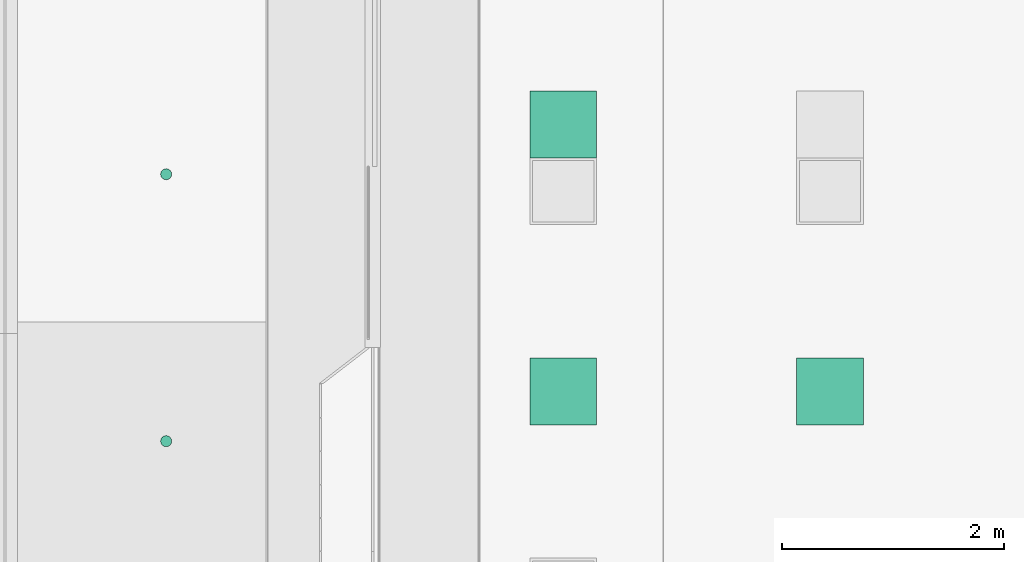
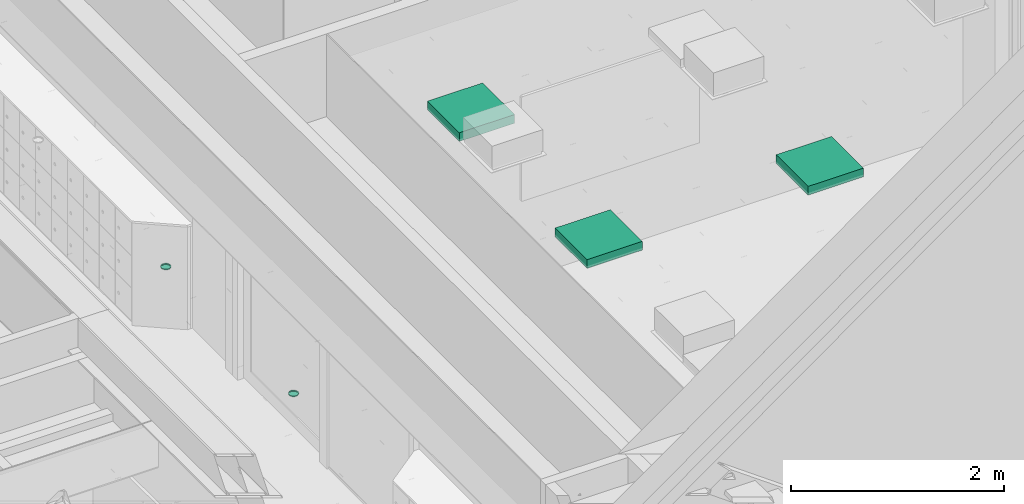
# One storey, part 242 of 347: 5 flow terminals.
"""IFC2X3 building model written with IfcOpenShell, lengths in millimetres."""

from ifc_helpers import new_model, entity, si_unit, converted_unit, derived_unit, money_unit, direction, frame, origin_with_axes, place, context, subcontext, project, spatial, open_shell, faceted_brep, surface_model, source, transform, mapped, type_object, type_shapes, element, save


model = new_model("IFC2X3")

# Units and contexts
model_context = context("Model", 3, precision=0.01, world=origin_with_axes(), true_north=direction((0.0, 1.0)))
plan_context = context("Plan", 3, precision=0.01, world=origin_with_axes(), true_north=direction((0.0, 1.0)))
body_context = subcontext(model_context, "Body", "Model", "MODEL_VIEW")
ifc_project = project(units=[si_unit("LENGTHUNIT", "METRE", prefix="MILLI"), si_unit("AREAUNIT", "SQUARE_METRE"), si_unit("VOLUMEUNIT", "CUBIC_METRE"), converted_unit("PLANEANGLEUNIT", "DEGREE", entity("IfcPlaneAngleMeasure", 0.0174532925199), si_unit("PLANEANGLEUNIT", "RADIAN"), dimensions=[0, 0, 0, 0, 0, 0, 0]), money_unit("EUR"), converted_unit("TIMEUNIT", "Year", entity("IfcTimeMeasure", 31556926.0), si_unit("TIMEUNIT", "SECOND"), dimensions=[0, 0, 1, 0, 0, 0, 0]), si_unit("MASSUNIT", "GRAM", prefix="KILO"), si_unit("THERMODYNAMICTEMPERATUREUNIT", "DEGREE_CELSIUS"), si_unit("LUMINOUSINTENSITYUNIT", "LUMEN"), si_unit("ENERGYUNIT", "JOULE", prefix="MEGA"), derived_unit("THERMALCONDUCTANCEUNIT", [(si_unit("POWERUNIT", "WATT"), 1), (si_unit("LENGTHUNIT", "METRE"), -1), (si_unit("THERMODYNAMICTEMPERATUREUNIT", "KELVIN"), -1)]), derived_unit("SPECIFICHEATCAPACITYUNIT", [(si_unit("ENERGYUNIT", "JOULE"), 1), (si_unit("MASSUNIT", "GRAM", prefix="KILO"), -1), (si_unit("THERMODYNAMICTEMPERATUREUNIT", "KELVIN"), -1)]), derived_unit("MASSDENSITYUNIT", [(si_unit("MASSUNIT", "GRAM", prefix="KILO"), 1), (si_unit("VOLUMEUNIT", "CUBIC_METRE"), -1)])], contexts=[model_context, plan_context])

# Site, building, storey
site_placement = place(None, origin_with_axes())
site = spatial("IfcSite", under=ifc_project, at=site_placement, Name="Site", CompositionType="ELEMENT")
building_placement = place(site_placement, origin_with_axes())
building = spatial("IfcBuilding", under=site, at=building_placement, Name="Naam gebouw", CompositionType="ELEMENT")
storey_placement = place(building_placement, origin_with_axes())
storey = spatial("IfcBuildingStorey", under=building, at=storey_placement, Name="begane grond", CompositionType="ELEMENT", Elevation=0.0)

# Flow terminals
lamp_type_1 = type_object("IfcLampType", Name="Spot plafond 01 25", PredefinedType="NOTDEFINED")
shared_shape_1 = source(origin_with_axes(), body_context, "Body", "SurfaceModel", [
    faceted_brep([(50.0, 0.0, -10.0), (46.1939766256, 19.1341716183, -10.0), (46.1939766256, 19.1341716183, 0.0), (50.0, 0.0, 0.0), (46.1939766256, -19.1341716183, -10.0), (35.3553390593, -35.3553390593, -10.0), (19.1341716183, -46.1939766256, -10.0), (0.0, -50.0, -10.0), (-19.1341716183, -46.1939766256, -10.0), (-35.3553390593, -35.3553390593, -10.0), (-46.1939766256, -19.1341716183, -10.0), (-50.0, 0.0, -10.0), (-46.1939766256, 19.1341716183, -10.0), (-35.3553390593, 35.3553390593, -10.0), (-19.1341716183, 46.1939766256, -10.0), (0.0, 50.0, -10.0), (19.1341716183, 46.1939766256, -10.0), (35.3553390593, 35.3553390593, -10.0), (40.0, 0.0, -10.0), (36.9551813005, 15.3073372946, -10.0), (28.2842712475, 28.2842712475, -10.0), (15.3073372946, 36.9551813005, -10.0), (0.0, 40.0, -10.0), (-15.3073372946, 36.9551813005, -10.0), (-28.2842712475, 28.2842712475, -10.0), (-36.9551813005, 15.3073372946, -10.0), (-40.0, 0.0, -10.0), (-36.9551813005, -15.3073372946, -10.0), (-28.2842712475, -28.2842712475, -10.0), (-15.3073372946, -36.9551813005, -10.0), (0.0, -40.0, -10.0), (15.3073372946, -36.9551813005, -10.0), (28.2842712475, -28.2842712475, -10.0), (36.9551813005, -15.3073372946, -10.0), (35.3553390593, 35.3553390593, 0.0), (19.1341716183, 46.1939766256, 0.0), (0.0, 50.0, 0.0), (-19.1341716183, 46.1939766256, 0.0), (-35.3553390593, 35.3553390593, 0.0), (-46.1939766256, 19.1341716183, 0.0), (-50.0, 0.0, 0.0), (-46.1939766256, -19.1341716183, 0.0), (-35.3553390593, -35.3553390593, 0.0), (-19.1341716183, -46.1939766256, 0.0), (0.0, -50.0, 0.0), (19.1341716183, -46.1939766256, 0.0), (35.3553390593, -35.3553390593, 0.0), (46.1939766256, -19.1341716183, 0.0), (40.0, 0.0, 0.0), (36.9551813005, -15.3073372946, 0.0), (28.2842712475, -28.2842712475, 0.0), (15.3073372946, -36.9551813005, 0.0), (0.0, -40.0, 0.0), (-15.3073372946, -36.9551813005, 0.0), (-28.2842712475, -28.2842712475, 0.0), (-36.9551813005, -15.3073372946, 0.0), (-40.0, 0.0, 0.0), (-36.9551813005, 15.3073372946, 0.0), (-28.2842712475, 28.2842712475, 0.0), (-15.3073372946, 36.9551813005, 0.0), (0.0, 40.0, 0.0), (15.3073372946, 36.9551813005, 0.0), (28.2842712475, 28.2842712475, 0.0), (36.9551813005, 15.3073372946, 0.0)], [[[0, 1, 2, 3]], [[0, 4, 5, 6, 7, 8, 9, 10, 11, 12, 13, 14, 15, 16, 17, 1], [18, 19, 20, 21, 22, 23, 24, 25, 26, 27, 28, 29, 30, 31, 32, 33]], [[1, 17, 34, 2]], [[3, 2, 34, 35, 36, 37, 38, 39, 40, 41, 42, 43, 44, 45, 46, 47], [48, 49, 50, 51, 52, 53, 54, 55, 56, 57, 58, 59, 60, 61, 62, 63]], [[4, 0, 3, 47]], [[5, 4, 47, 46]], [[6, 5, 46, 45]], [[7, 6, 45, 44]], [[8, 7, 44, 43]], [[9, 8, 43, 42]], [[10, 9, 42, 41]], [[11, 10, 41, 40]], [[12, 11, 40, 39]], [[13, 12, 39, 38]], [[14, 13, 38, 37]], [[15, 14, 37, 36]], [[16, 15, 36, 35]], [[17, 16, 35, 34]], [[19, 18, 48, 63]], [[20, 19, 63, 62]], [[21, 20, 62, 61]], [[22, 21, 61, 60]], [[23, 22, 60, 59]], [[24, 23, 59, 58]], [[25, 24, 58, 57]], [[26, 25, 57, 56]], [[27, 26, 56, 55]], [[28, 27, 55, 54]], [[29, 28, 54, 53]], [[30, 29, 53, 52]], [[31, 30, 52, 51]], [[32, 31, 51, 50]], [[33, 32, 50, 49]], [[18, 33, 49, 48]]]),
    surface_model("IfcShellBasedSurfaceModel", [(40.0, 0.0, -8.9), (36.9551813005, -15.3073372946, -8.9), (28.2842712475, -28.2842712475, -8.9), (15.3073372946, -36.9551813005, -8.9), (0.0, -40.0, -8.9), (-15.3073372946, -36.9551813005, -8.9), (-28.2842712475, -28.2842712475, -8.9), (-36.9551813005, -15.3073372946, -8.9), (-40.0, 0.0, -8.9), (-36.9551813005, 15.3073372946, -8.9), (-28.2842712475, 28.2842712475, -8.9), (-15.3073372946, 36.9551813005, -8.9), (0.0, 40.0, -8.9), (15.3073372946, 36.9551813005, -8.9), (28.2842712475, 28.2842712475, -8.9), (36.9551813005, 15.3073372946, -8.9)], [open_shell([[[0, 1, 2, 3, 4, 5, 6, 7, 8, 9, 10, 11, 12, 13, 14, 15]]])]),
])
type_shapes(lamp_type_1, [shared_shape_1])
for number, where, z_axis, x_axis, name in (
    (1, (46155.0, 18140.0001323, 3000.0), (0.0, 0.0, 1.0), (1.0, 0.0, 0.0), "63_Lamp-x"),
    (2, (46155.0, 15740.0001323, 3000.0), (0.0, 0.0, 1.0), (1.0, 0.0, 0.0), "63_Lamp-x"),
):
    element("IfcFlowTerminal", number, at=place(storey_placement, frame(where, z_axis=z_axis, x_axis=x_axis)), inside=storey, type_object=lamp_type_1, Name=name, ObjectType="Lamp", context=body_context, shape_type="MappedRepresentation", body=[
        mapped(shared_shape_1, transform((0.0, 0.0, 0.0))),
    ])
lamp_type_2 = type_object("IfcLampType", Name="TL plafond 25", PredefinedType="NOTDEFINED")
shared_shape_2 = source(origin_with_axes(), body_context, "Body", "SurfaceModel", [
    faceted_brep([(0.0, 0.0, -100.0), (600.0, 0.0, -100.0), (600.0, 0.0, 0.0), (0.0, 0.0, 0.0), (0.0, 600.0, -100.0), (600.0, 600.0, -100.0), (40.0, 40.0, -100.0), (560.0, 40.0, -100.0), (560.0, 560.0, -100.0), (40.0, 560.0, -100.0), (600.0, 600.0, 0.0), (0.0, 600.0, 0.0), (40.0, 40.0, 0.0), (40.0, 560.0, 0.0), (560.0, 560.0, 0.0), (560.0, 40.0, 0.0)], [[[0, 1, 2, 3]], [[0, 4, 5, 1], [6, 7, 8, 9]], [[1, 5, 10, 2]], [[3, 2, 10, 11], [12, 13, 14, 15]], [[4, 0, 3, 11]], [[5, 4, 11, 10]], [[7, 6, 12, 15]], [[8, 7, 15, 14]], [[9, 8, 14, 13]], [[6, 9, 13, 12]]]),
    faceted_brep([(40.0, 40.0, -16.3333333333), (560.0, 40.0, -16.3333333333), (560.0, 40.0, 0.0), (40.0, 40.0, 0.0), (40.0, 560.0, -16.3333333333), (560.0, 560.0, -16.3333333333), (560.0, 560.0, 0.0), (40.0, 560.0, 0.0)], [[[0, 1, 2, 3]], [[0, 4, 5, 1]], [[1, 5, 6, 2]], [[3, 2, 6, 7]], [[4, 0, 3, 7]], [[5, 4, 7, 6]]]),
    surface_model("IfcShellBasedSurfaceModel", [(559.0, 41.0, -100.0), (40.0, 41.0, -100.0), (40.0, 559.0, -100.0), (559.0, 559.0, -100.0)], [open_shell([[[0, 1, 2, 3]]])]),
    faceted_brep([(40.0, 40.0, -100.0), (560.0, 40.0, -100.0), (560.0, 40.0, -60.0), (40.0, 40.0, -60.0), (40.0, 560.0, -100.0), (560.0, 560.0, -100.0), (41.0, 41.0, -100.0), (559.0, 41.0, -100.0), (559.0, 559.0, -100.0), (41.0, 559.0, -100.0), (560.0, 560.0, -60.0), (40.0, 560.0, -60.0), (41.0, 41.0, -60.0), (41.0, 559.0, -60.0), (559.0, 559.0, -60.0), (559.0, 41.0, -60.0)], [[[0, 1, 2, 3]], [[0, 4, 5, 1], [6, 7, 8, 9]], [[1, 5, 10, 2]], [[3, 2, 10, 11], [12, 13, 14, 15]], [[4, 0, 3, 11]], [[5, 4, 11, 10]], [[7, 6, 12, 15]], [[8, 7, 15, 14]], [[9, 8, 14, 13]], [[6, 9, 13, 12]]]),
    faceted_brep([(40.0, 144.0, -48.3333333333), (40.0, 149.740251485, -47.191526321), (560.0, 149.740251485, -47.191526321), (560.0, 144.0, -48.3333333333), (40.0, 138.259748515, -47.191526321), (40.0, 133.393398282, -43.9399350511), (40.0, 130.141807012, -39.0735848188), (40.0, 129.0, -33.3333333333), (40.0, 130.141807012, -27.5930818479), (40.0, 133.393398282, -22.7267316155), (40.0, 138.259748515, -19.4751403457), (40.0, 144.0, -18.3333333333), (40.0, 149.740251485, -19.4751403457), (40.0, 154.606601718, -22.7267316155), (40.0, 157.858192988, -27.5930818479), (40.0, 159.0, -33.3333333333), (40.0, 157.858192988, -39.0735848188), (40.0, 154.606601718, -43.9399350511), (40.0, 144.0, -46.3333333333), (40.0, 148.974884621, -45.343767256), (40.0, 153.192388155, -42.5257214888), (40.0, 156.010433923, -38.3082179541), (40.0, 157.0, -33.3333333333), (40.0, 156.010433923, -28.3584487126), (40.0, 153.192388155, -24.1409451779), (40.0, 148.974884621, -21.3228994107), (40.0, 144.0, -20.3333333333), (40.0, 139.025115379, -21.3228994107), (40.0, 134.807611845, -24.1409451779), (40.0, 131.989566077, -28.3584487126), (40.0, 131.0, -33.3333333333), (40.0, 131.989566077, -38.3082179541), (40.0, 134.807611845, -42.5257214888), (40.0, 139.025115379, -45.343767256), (560.0, 154.606601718, -43.9399350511), (560.0, 157.858192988, -39.0735848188), (560.0, 159.0, -33.3333333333), (560.0, 157.858192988, -27.5930818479), (560.0, 154.606601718, -22.7267316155), (560.0, 149.740251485, -19.4751403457), (560.0, 144.0, -18.3333333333), (560.0, 138.259748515, -19.4751403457), (560.0, 133.393398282, -22.7267316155), (560.0, 130.141807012, -27.5930818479), (560.0, 129.0, -33.3333333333), (560.0, 130.141807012, -39.0735848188), (560.0, 133.393398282, -43.9399350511), (560.0, 138.259748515, -47.191526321), (560.0, 144.0, -46.3333333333), (560.0, 139.025115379, -45.343767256), (560.0, 134.807611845, -42.5257214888), (560.0, 131.989566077, -38.3082179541), (560.0, 131.0, -33.3333333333), (560.0, 131.989566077, -28.3584487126), (560.0, 134.807611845, -24.1409451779), (560.0, 139.025115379, -21.3228994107), (560.0, 144.0, -20.3333333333), (560.0, 148.974884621, -21.3228994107), (560.0, 153.192388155, -24.1409451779), (560.0, 156.010433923, -28.3584487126), (560.0, 157.0, -33.3333333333), (560.0, 156.010433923, -38.3082179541), (560.0, 153.192388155, -42.5257214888), (560.0, 148.974884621, -45.343767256)], [[[0, 1, 2, 3]], [[0, 4, 5, 6, 7, 8, 9, 10, 11, 12, 13, 14, 15, 16, 17, 1], [18, 19, 20, 21, 22, 23, 24, 25, 26, 27, 28, 29, 30, 31, 32, 33]], [[1, 17, 34, 2]], [[3, 2, 34, 35, 36, 37, 38, 39, 40, 41, 42, 43, 44, 45, 46, 47], [48, 49, 50, 51, 52, 53, 54, 55, 56, 57, 58, 59, 60, 61, 62, 63]], [[4, 0, 3, 47]], [[5, 4, 47, 46]], [[6, 5, 46, 45]], [[7, 6, 45, 44]], [[8, 7, 44, 43]], [[9, 8, 43, 42]], [[10, 9, 42, 41]], [[11, 10, 41, 40]], [[12, 11, 40, 39]], [[13, 12, 39, 38]], [[14, 13, 38, 37]], [[15, 14, 37, 36]], [[16, 15, 36, 35]], [[17, 16, 35, 34]], [[19, 18, 48, 63]], [[20, 19, 63, 62]], [[21, 20, 62, 61]], [[22, 21, 61, 60]], [[23, 22, 60, 59]], [[24, 23, 59, 58]], [[25, 24, 58, 57]], [[26, 25, 57, 56]], [[27, 26, 56, 55]], [[28, 27, 55, 54]], [[29, 28, 54, 53]], [[30, 29, 53, 52]], [[31, 30, 52, 51]], [[32, 31, 51, 50]], [[33, 32, 50, 49]], [[18, 33, 49, 48]]]),
    faceted_brep([(40.0, 248.0, -48.3333333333), (40.0, 253.740251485, -47.191526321), (560.0, 253.740251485, -47.191526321), (560.0, 248.0, -48.3333333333), (40.0, 242.259748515, -47.191526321), (40.0, 237.393398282, -43.9399350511), (40.0, 234.141807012, -39.0735848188), (40.0, 233.0, -33.3333333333), (40.0, 234.141807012, -27.5930818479), (40.0, 237.393398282, -22.7267316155), (40.0, 242.259748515, -19.4751403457), (40.0, 248.0, -18.3333333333), (40.0, 253.740251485, -19.4751403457), (40.0, 258.606601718, -22.7267316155), (40.0, 261.858192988, -27.5930818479), (40.0, 263.0, -33.3333333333), (40.0, 261.858192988, -39.0735848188), (40.0, 258.606601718, -43.9399350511), (40.0, 248.0, -46.3333333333), (40.0, 252.974884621, -45.343767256), (40.0, 257.192388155, -42.5257214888), (40.0, 260.010433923, -38.3082179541), (40.0, 261.0, -33.3333333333), (40.0, 260.010433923, -28.3584487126), (40.0, 257.192388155, -24.1409451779), (40.0, 252.974884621, -21.3228994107), (40.0, 248.0, -20.3333333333), (40.0, 243.025115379, -21.3228994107), (40.0, 238.807611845, -24.1409451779), (40.0, 235.989566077, -28.3584487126), (40.0, 235.0, -33.3333333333), (40.0, 235.989566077, -38.3082179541), (40.0, 238.807611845, -42.5257214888), (40.0, 243.025115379, -45.343767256), (560.0, 258.606601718, -43.9399350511), (560.0, 261.858192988, -39.0735848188), (560.0, 263.0, -33.3333333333), (560.0, 261.858192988, -27.5930818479), (560.0, 258.606601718, -22.7267316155), (560.0, 253.740251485, -19.4751403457), (560.0, 248.0, -18.3333333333), (560.0, 242.259748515, -19.4751403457), (560.0, 237.393398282, -22.7267316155), (560.0, 234.141807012, -27.5930818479), (560.0, 233.0, -33.3333333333), (560.0, 234.141807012, -39.0735848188), (560.0, 237.393398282, -43.9399350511), (560.0, 242.259748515, -47.191526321), (560.0, 248.0, -46.3333333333), (560.0, 243.025115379, -45.343767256), (560.0, 238.807611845, -42.5257214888), (560.0, 235.989566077, -38.3082179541), (560.0, 235.0, -33.3333333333), (560.0, 235.989566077, -28.3584487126), (560.0, 238.807611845, -24.1409451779), (560.0, 243.025115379, -21.3228994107), (560.0, 248.0, -20.3333333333), (560.0, 252.974884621, -21.3228994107), (560.0, 257.192388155, -24.1409451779), (560.0, 260.010433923, -28.3584487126), (560.0, 261.0, -33.3333333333), (560.0, 260.010433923, -38.3082179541), (560.0, 257.192388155, -42.5257214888), (560.0, 252.974884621, -45.343767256)], [[[0, 1, 2, 3]], [[0, 4, 5, 6, 7, 8, 9, 10, 11, 12, 13, 14, 15, 16, 17, 1], [18, 19, 20, 21, 22, 23, 24, 25, 26, 27, 28, 29, 30, 31, 32, 33]], [[1, 17, 34, 2]], [[3, 2, 34, 35, 36, 37, 38, 39, 40, 41, 42, 43, 44, 45, 46, 47], [48, 49, 50, 51, 52, 53, 54, 55, 56, 57, 58, 59, 60, 61, 62, 63]], [[4, 0, 3, 47]], [[5, 4, 47, 46]], [[6, 5, 46, 45]], [[7, 6, 45, 44]], [[8, 7, 44, 43]], [[9, 8, 43, 42]], [[10, 9, 42, 41]], [[11, 10, 41, 40]], [[12, 11, 40, 39]], [[13, 12, 39, 38]], [[14, 13, 38, 37]], [[15, 14, 37, 36]], [[16, 15, 36, 35]], [[17, 16, 35, 34]], [[19, 18, 48, 63]], [[20, 19, 63, 62]], [[21, 20, 62, 61]], [[22, 21, 61, 60]], [[23, 22, 60, 59]], [[24, 23, 59, 58]], [[25, 24, 58, 57]], [[26, 25, 57, 56]], [[27, 26, 56, 55]], [[28, 27, 55, 54]], [[29, 28, 54, 53]], [[30, 29, 53, 52]], [[31, 30, 52, 51]], [[32, 31, 51, 50]], [[33, 32, 50, 49]], [[18, 33, 49, 48]]]),
    faceted_brep([(40.0, 352.0, -48.3333333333), (40.0, 357.740251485, -47.191526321), (560.0, 357.740251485, -47.191526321), (560.0, 352.0, -48.3333333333), (40.0, 346.259748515, -47.191526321), (40.0, 341.393398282, -43.9399350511), (40.0, 338.141807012, -39.0735848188), (40.0, 337.0, -33.3333333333), (40.0, 338.141807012, -27.5930818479), (40.0, 341.393398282, -22.7267316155), (40.0, 346.259748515, -19.4751403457), (40.0, 352.0, -18.3333333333), (40.0, 357.740251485, -19.4751403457), (40.0, 362.606601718, -22.7267316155), (40.0, 365.858192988, -27.5930818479), (40.0, 367.0, -33.3333333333), (40.0, 365.858192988, -39.0735848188), (40.0, 362.606601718, -43.9399350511), (40.0, 352.0, -46.3333333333), (40.0, 356.974884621, -45.343767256), (40.0, 361.192388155, -42.5257214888), (40.0, 364.010433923, -38.3082179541), (40.0, 365.0, -33.3333333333), (40.0, 364.010433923, -28.3584487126), (40.0, 361.192388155, -24.1409451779), (40.0, 356.974884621, -21.3228994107), (40.0, 352.0, -20.3333333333), (40.0, 347.025115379, -21.3228994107), (40.0, 342.807611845, -24.1409451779), (40.0, 339.989566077, -28.3584487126), (40.0, 339.0, -33.3333333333), (40.0, 339.989566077, -38.3082179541), (40.0, 342.807611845, -42.5257214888), (40.0, 347.025115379, -45.343767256), (560.0, 362.606601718, -43.9399350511), (560.0, 365.858192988, -39.0735848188), (560.0, 367.0, -33.3333333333), (560.0, 365.858192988, -27.5930818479), (560.0, 362.606601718, -22.7267316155), (560.0, 357.740251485, -19.4751403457), (560.0, 352.0, -18.3333333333), (560.0, 346.259748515, -19.4751403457), (560.0, 341.393398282, -22.7267316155), (560.0, 338.141807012, -27.5930818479), (560.0, 337.0, -33.3333333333), (560.0, 338.141807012, -39.0735848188), (560.0, 341.393398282, -43.9399350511), (560.0, 346.259748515, -47.191526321), (560.0, 352.0, -46.3333333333), (560.0, 347.025115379, -45.343767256), (560.0, 342.807611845, -42.5257214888), (560.0, 339.989566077, -38.3082179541), (560.0, 339.0, -33.3333333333), (560.0, 339.989566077, -28.3584487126), (560.0, 342.807611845, -24.1409451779), (560.0, 347.025115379, -21.3228994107), (560.0, 352.0, -20.3333333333), (560.0, 356.974884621, -21.3228994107), (560.0, 361.192388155, -24.1409451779), (560.0, 364.010433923, -28.3584487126), (560.0, 365.0, -33.3333333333), (560.0, 364.010433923, -38.3082179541), (560.0, 361.192388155, -42.5257214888), (560.0, 356.974884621, -45.343767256)], [[[0, 1, 2, 3]], [[0, 4, 5, 6, 7, 8, 9, 10, 11, 12, 13, 14, 15, 16, 17, 1], [18, 19, 20, 21, 22, 23, 24, 25, 26, 27, 28, 29, 30, 31, 32, 33]], [[1, 17, 34, 2]], [[3, 2, 34, 35, 36, 37, 38, 39, 40, 41, 42, 43, 44, 45, 46, 47], [48, 49, 50, 51, 52, 53, 54, 55, 56, 57, 58, 59, 60, 61, 62, 63]], [[4, 0, 3, 47]], [[5, 4, 47, 46]], [[6, 5, 46, 45]], [[7, 6, 45, 44]], [[8, 7, 44, 43]], [[9, 8, 43, 42]], [[10, 9, 42, 41]], [[11, 10, 41, 40]], [[12, 11, 40, 39]], [[13, 12, 39, 38]], [[14, 13, 38, 37]], [[15, 14, 37, 36]], [[16, 15, 36, 35]], [[17, 16, 35, 34]], [[19, 18, 48, 63]], [[20, 19, 63, 62]], [[21, 20, 62, 61]], [[22, 21, 61, 60]], [[23, 22, 60, 59]], [[24, 23, 59, 58]], [[25, 24, 58, 57]], [[26, 25, 57, 56]], [[27, 26, 56, 55]], [[28, 27, 55, 54]], [[29, 28, 54, 53]], [[30, 29, 53, 52]], [[31, 30, 52, 51]], [[32, 31, 51, 50]], [[33, 32, 50, 49]], [[18, 33, 49, 48]]]),
    faceted_brep([(40.0, 456.0, -48.3333333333), (40.0, 461.740251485, -47.191526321), (560.0, 461.740251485, -47.191526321), (560.0, 456.0, -48.3333333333), (40.0, 450.259748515, -47.191526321), (40.0, 445.393398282, -43.9399350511), (40.0, 442.141807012, -39.0735848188), (40.0, 441.0, -33.3333333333), (40.0, 442.141807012, -27.5930818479), (40.0, 445.393398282, -22.7267316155), (40.0, 450.259748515, -19.4751403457), (40.0, 456.0, -18.3333333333), (40.0, 461.740251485, -19.4751403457), (40.0, 466.606601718, -22.7267316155), (40.0, 469.858192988, -27.5930818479), (40.0, 471.0, -33.3333333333), (40.0, 469.858192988, -39.0735848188), (40.0, 466.606601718, -43.9399350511), (40.0, 456.0, -46.3333333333), (40.0, 460.974884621, -45.343767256), (40.0, 465.192388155, -42.5257214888), (40.0, 468.010433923, -38.3082179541), (40.0, 469.0, -33.3333333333), (40.0, 468.010433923, -28.3584487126), (40.0, 465.192388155, -24.1409451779), (40.0, 460.974884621, -21.3228994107), (40.0, 456.0, -20.3333333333), (40.0, 451.025115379, -21.3228994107), (40.0, 446.807611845, -24.1409451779), (40.0, 443.989566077, -28.3584487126), (40.0, 443.0, -33.3333333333), (40.0, 443.989566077, -38.3082179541), (40.0, 446.807611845, -42.5257214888), (40.0, 451.025115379, -45.343767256), (560.0, 466.606601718, -43.9399350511), (560.0, 469.858192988, -39.0735848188), (560.0, 471.0, -33.3333333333), (560.0, 469.858192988, -27.5930818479), (560.0, 466.606601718, -22.7267316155), (560.0, 461.740251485, -19.4751403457), (560.0, 456.0, -18.3333333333), (560.0, 450.259748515, -19.4751403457), (560.0, 445.393398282, -22.7267316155), (560.0, 442.141807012, -27.5930818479), (560.0, 441.0, -33.3333333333), (560.0, 442.141807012, -39.0735848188), (560.0, 445.393398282, -43.9399350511), (560.0, 450.259748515, -47.191526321), (560.0, 456.0, -46.3333333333), (560.0, 451.025115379, -45.343767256), (560.0, 446.807611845, -42.5257214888), (560.0, 443.989566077, -38.3082179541), (560.0, 443.0, -33.3333333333), (560.0, 443.989566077, -28.3584487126), (560.0, 446.807611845, -24.1409451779), (560.0, 451.025115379, -21.3228994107), (560.0, 456.0, -20.3333333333), (560.0, 460.974884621, -21.3228994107), (560.0, 465.192388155, -24.1409451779), (560.0, 468.010433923, -28.3584487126), (560.0, 469.0, -33.3333333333), (560.0, 468.010433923, -38.3082179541), (560.0, 465.192388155, -42.5257214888), (560.0, 460.974884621, -45.343767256)], [[[0, 1, 2, 3]], [[0, 4, 5, 6, 7, 8, 9, 10, 11, 12, 13, 14, 15, 16, 17, 1], [18, 19, 20, 21, 22, 23, 24, 25, 26, 27, 28, 29, 30, 31, 32, 33]], [[1, 17, 34, 2]], [[3, 2, 34, 35, 36, 37, 38, 39, 40, 41, 42, 43, 44, 45, 46, 47], [48, 49, 50, 51, 52, 53, 54, 55, 56, 57, 58, 59, 60, 61, 62, 63]], [[4, 0, 3, 47]], [[5, 4, 47, 46]], [[6, 5, 46, 45]], [[7, 6, 45, 44]], [[8, 7, 44, 43]], [[9, 8, 43, 42]], [[10, 9, 42, 41]], [[11, 10, 41, 40]], [[12, 11, 40, 39]], [[13, 12, 39, 38]], [[14, 13, 38, 37]], [[15, 14, 37, 36]], [[16, 15, 36, 35]], [[17, 16, 35, 34]], [[19, 18, 48, 63]], [[20, 19, 63, 62]], [[21, 20, 62, 61]], [[22, 21, 61, 60]], [[23, 22, 60, 59]], [[24, 23, 59, 58]], [[25, 24, 58, 57]], [[26, 25, 57, 56]], [[27, 26, 56, 55]], [[28, 27, 55, 54]], [[29, 28, 54, 53]], [[30, 29, 53, 52]], [[31, 30, 52, 51]], [[32, 31, 51, 50]], [[33, 32, 50, 49]], [[18, 33, 49, 48]]]),
])
type_shapes(lamp_type_2, [shared_shape_2])
for number, where, z_axis, x_axis, name in (
    (3, (49425.0, 15887.5, 3295.0), (0.0, 0.0, 1.0), (1.0, 0.0, 0.0), "63_Lamp-x"),
    (4, (49425.0, 18287.5, 3295.0), (0.0, 0.0, 1.0), (1.0, 0.0, 0.0), "63_Lamp-x"),
    (5, (51825.0, 15887.5, 3295.0), (0.0, 0.0, 1.0), (1.0, 0.0, 0.0), "63_Lamp-x"),
):
    element("IfcFlowTerminal", number, at=place(storey_placement, frame(where, z_axis=z_axis, x_axis=x_axis)), inside=storey, type_object=lamp_type_2, Name=name, ObjectType="Lamp", context=body_context, shape_type="MappedRepresentation", body=[
        mapped(shared_shape_2, transform((0.0, 0.0, 0.0))),
    ])

save(model, "model.ifc")
